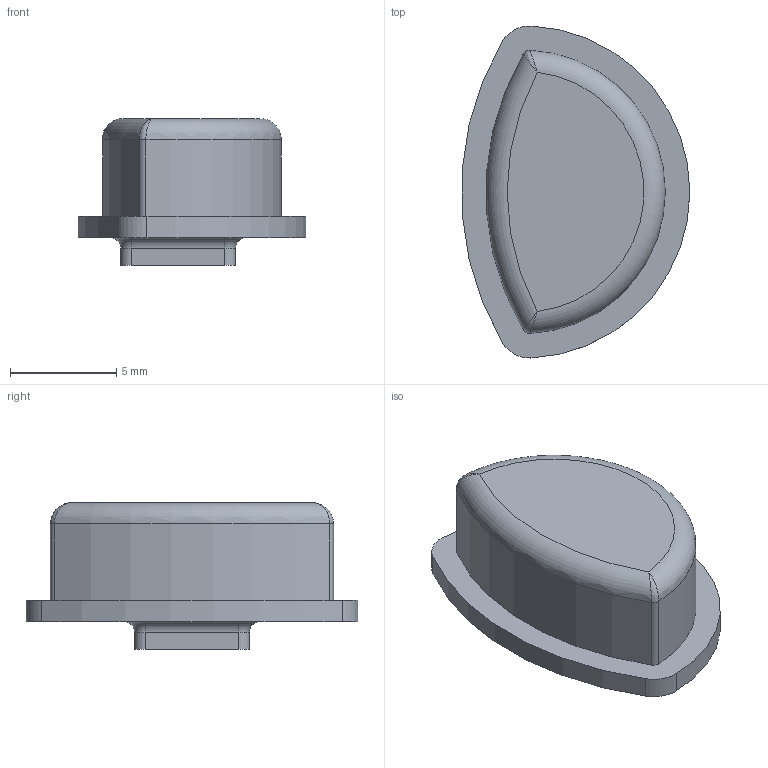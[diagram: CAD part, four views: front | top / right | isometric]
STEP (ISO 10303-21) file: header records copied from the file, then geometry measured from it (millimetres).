
FILE_DESCRIPTION(/* description */ (''),/* implementation_level */ '2;1');
FILE_NAME(/* name */ 'Exploiteers_Hacker_Pager_V107_Right_D_Pad_Button_step.stp',/* time_stamp */ '2026-06-11T15:12:58-04:00',/* author */ 'SGX',/* organization */ 'Exploiteers',/* preprocessor_version */ 'ST-DEVELOPER v20.1',/* originating_system */ 'Autodesk Translation Framework v15.8.0.0',/* authorisation */ '');
FILE_SCHEMA (('AUTOMOTIVE_DESIGN { 1 0 10303 214 3 1 1 }'));
Length unit declared in the file: millimetre
Products named in the file (1): Right_D_Pad_Button
Bounding box: 10.69 x 15.6 x 6.9 mm (x, y, z)
Volume: 553.2 mm3; surface area: 467.2 mm2
Topology: 1 solids, 1 shells, 32 faces, 72 edges, 42 vertices
Faces by surface type: cylinder 16, plane 8, torus 6, bspline 2
Entity records: 989 total; most frequent: CARTESIAN_POINT 235, DIRECTION 166, ORIENTED_EDGE 140, EDGE_CURVE 70, AXIS2_PLACEMENT_3D 69, VERTEX_POINT 42, CIRCLE 38, EDGE_LOOP 34
